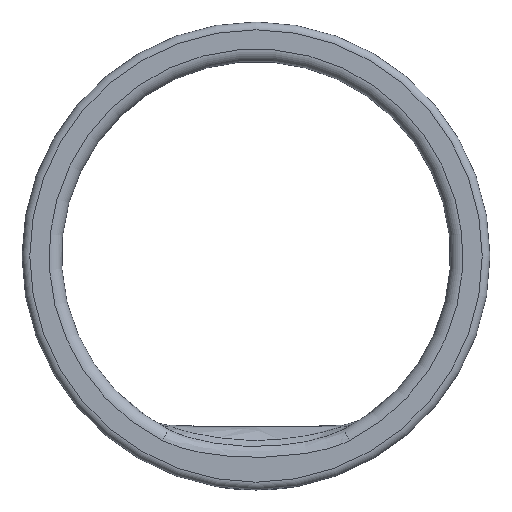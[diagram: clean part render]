
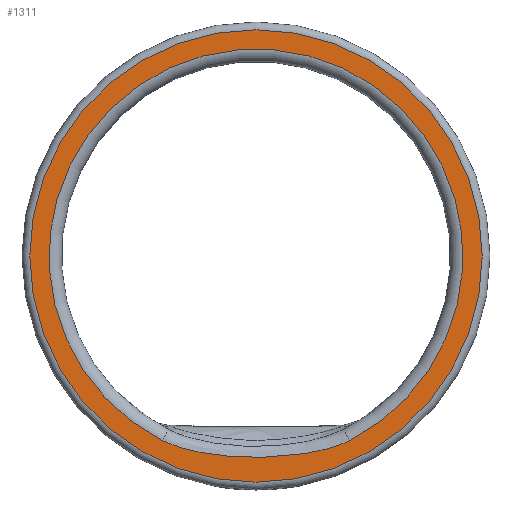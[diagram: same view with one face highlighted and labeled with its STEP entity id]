
A CAD part, front view. The second image highlights one B-rep face of the part: STEP entity #1311.
In plain terms, the highlighted planar face has unit normal (0, -1, 0).
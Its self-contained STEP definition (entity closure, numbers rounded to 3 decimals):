
#181=FACE_BOUND('',#300,.T.);
#189=PLANE('',#1402);
#224=FACE_OUTER_BOUND('',#299,.T.);
#299=EDGE_LOOP('',(#871));
#300=EDGE_LOOP('',(#872,#873));
#379=B_SPLINE_CURVE_WITH_KNOTS('',3,(#1770,#1771,#1772,#1773,#1774,#1775,
#1776,#1777,#1778,#1779,#1780),.UNSPECIFIED.,.F.,.F.,(4,1,1,2,2,1,4),(0.,
0.16,0.32,0.534,0.858,
1.08,1.228),.UNSPECIFIED.);
#475=CIRCLE('',#1401,13.305);
#476=CIRCLE('',#1403,14.544);
#502=VERTEX_POINT('',#1767);
#503=VERTEX_POINT('',#1769);
#514=VERTEX_POINT('',#1977);
#644=EDGE_CURVE('',#502,#503,#379,.T.);
#648=EDGE_CURVE('',#503,#502,#475,.T.);
#659=EDGE_CURVE('',#514,#514,#476,.T.);
#871=ORIENTED_EDGE('',*,*,#659,.F.);
#872=ORIENTED_EDGE('',*,*,#644,.F.);
#873=ORIENTED_EDGE('',*,*,#648,.F.);
#1311=ADVANCED_FACE('',(#224,#181),#189,.F.);
#1401=AXIS2_PLACEMENT_3D('',#1796,#1486,#1487);
#1402=AXIS2_PLACEMENT_3D('',#1976,#1488,#1489);
#1403=AXIS2_PLACEMENT_3D('',#1978,#1490,#1491);
#1486=DIRECTION('center_axis',(0.,-1.,0.));
#1487=DIRECTION('ref_axis',(0.,0.,1.));
#1488=DIRECTION('center_axis',(0.,1.,0.));
#1489=DIRECTION('ref_axis',(0.,0.,1.));
#1490=DIRECTION('center_axis',(0.,1.,0.));
#1491=DIRECTION('ref_axis',(1.,0.,0.));
#1767=CARTESIAN_POINT('',(-6.596,-4.05,-12.448));
#1769=CARTESIAN_POINT('',(5.422,-4.05,-12.448));
#1770=CARTESIAN_POINT('Ctrl Pts',(-6.596,-4.05,-12.448));
#1771=CARTESIAN_POINT('Ctrl Pts',(-6.119,-4.05,-12.689));
#1772=CARTESIAN_POINT('Ctrl Pts',(-5.098,-4.05,-13.034));
#1773=CARTESIAN_POINT('Ctrl Pts',(-3.351,-4.05,-13.375));
#1774=CARTESIAN_POINT('Ctrl Pts',(-2.106,-4.05,-13.483));
#1775=CARTESIAN_POINT('Ctrl Pts',(-0.316,-4.05,-13.549));
#1776=CARTESIAN_POINT('Ctrl Pts',(0.773,-4.05,-13.512));
#1777=CARTESIAN_POINT('Ctrl Pts',(2.593,-4.05,-13.293));
#1778=CARTESIAN_POINT('Ctrl Pts',(3.812,-4.05,-13.078));
#1779=CARTESIAN_POINT('Ctrl Pts',(4.982,-4.05,-12.671));
#1780=CARTESIAN_POINT('Ctrl Pts',(5.422,-4.05,-12.448));
#1796=CARTESIAN_POINT('Origin',(-0.587,-4.05,-0.577));
#1976=CARTESIAN_POINT('Origin',(-0.587,-4.05,-0.577));
#1977=CARTESIAN_POINT('',(-0.587,-4.05,13.967));
#1978=CARTESIAN_POINT('Origin',(-0.587,-4.05,-0.577));
